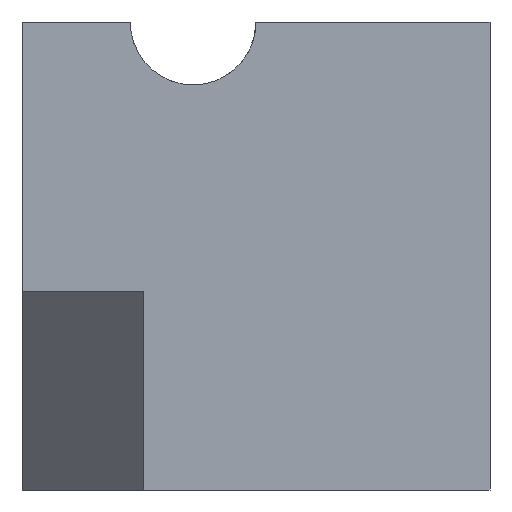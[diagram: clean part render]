
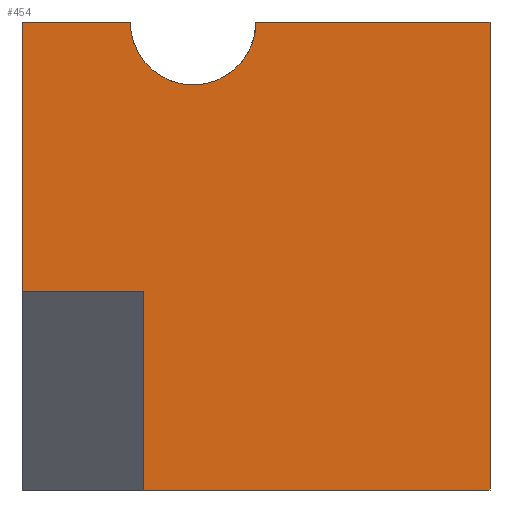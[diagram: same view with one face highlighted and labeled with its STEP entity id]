
A CAD part, left-side view. The second image highlights one B-rep face of the part: STEP entity #454.
In plain terms, the highlighted planar face has unit normal (-1, 0, 0).
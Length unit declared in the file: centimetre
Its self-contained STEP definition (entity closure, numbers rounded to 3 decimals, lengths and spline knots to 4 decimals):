
#5 = ORIENTED_EDGE ( 'NONE', *, *, #363, .F. ) ;
#9 = DIRECTION ( 'NONE',  ( 0., 0., -1. ) ) ;
#14 = VERTEX_POINT ( 'NONE', #33 ) ;
#16 = DIRECTION ( 'NONE',  ( 1., 0., 0. ) ) ;
#25 = CARTESIAN_POINT ( 'NONE',  ( 0., 1000., 424.6792 ) ) ;
#33 = CARTESIAN_POINT ( 'NONE',  ( 0., 1000., 1000. ) ) ;
#50 = CARTESIAN_POINT ( 'NONE',  ( 0., 1000., 1000. ) ) ;
#54 = ORIENTED_EDGE ( 'NONE', *, *, #394, .T. ) ;
#57 = CARTESIAN_POINT ( 'NONE',  ( 0., 634.4474, 1000. ) ) ;
#61 = CARTESIAN_POINT ( 'NONE',  ( 0., 500.0916, 1000. ) ) ;
#69 = CARTESIAN_POINT ( 'NONE',  ( 0., 1000., 1000. ) ) ;
#71 = EDGE_CURVE ( 'NONE', #193, #294, #190, .T. ) ;
#78 = CARTESIAN_POINT ( 'NONE',  ( 0., 739.3919, 424.6792 ) ) ;
#79 = VERTEX_POINT ( 'NONE', #78 ) ;
#82 = VERTEX_POINT ( 'NONE', #464 ) ;
#85 = EDGE_CURVE ( 'NONE', #82, #276, #393, .T. ) ;
#97 = VECTOR ( 'NONE', #102, 100. ) ;
#99 = PLANE ( 'NONE',  #154 ) ;
#102 = DIRECTION ( 'NONE',  ( 0., -1., 0. ) ) ;
#110 = CARTESIAN_POINT ( 'NONE',  ( 0., 1000., 424.6792 ) ) ;
#116 = ORIENTED_EDGE ( 'NONE', *, *, #85, .T. ) ;
#132 = DIRECTION ( 'NONE',  ( 0., 0., -1. ) ) ;
#148 = DIRECTION ( 'NONE',  ( 0., 0., -1. ) ) ;
#154 = AXIS2_PLACEMENT_3D ( 'NONE', #50, #330, #9 ) ;
#158 = VERTEX_POINT ( 'NONE', #282 ) ;
#166 = ORIENTED_EDGE ( 'NONE', *, *, #368, .F. ) ;
#174 = CARTESIAN_POINT ( 'NONE',  ( 0., 768.8031, 1000. ) ) ;
#179 = DIRECTION ( 'NONE',  ( 0., 0., -1. ) ) ;
#184 = LINE ( 'NONE', #336, #422 ) ;
#190 = LINE ( 'NONE', #351, #461 ) ;
#193 = VERTEX_POINT ( 'NONE', #398 ) ;
#198 = ORIENTED_EDGE ( 'NONE', *, *, #71, .T. ) ;
#206 = CARTESIAN_POINT ( 'NONE',  ( 0., 0., 1000. ) ) ;
#212 = DIRECTION ( 'NONE',  ( 0., -1., 0. ) ) ;
#214 = ORIENTED_EDGE ( 'NONE', *, *, #354, .F. ) ;
#219 = CARTESIAN_POINT ( 'NONE',  ( 0., 0., 0. ) ) ;
#223 = DIRECTION ( 'NONE',  ( 0., 0., -1. ) ) ;
#229 = CARTESIAN_POINT ( 'NONE',  ( 0., 634.4474, 1000. ) ) ;
#235 = DIRECTION ( 'NONE',  ( 0., -1., 0. ) ) ;
#240 = LINE ( 'NONE', #206, #335 ) ;
#244 = EDGE_LOOP ( 'NONE', ( #5, #455, #198, #248, #166, #272, #116, #214, #54 ) ) ;
#248 = ORIENTED_EDGE ( 'NONE', *, *, #253, .F. ) ;
#253 = EDGE_CURVE ( 'NONE', #158, #294, #240, .T. ) ;
#255 = DIRECTION ( 'NONE',  ( 0., 1., 0. ) ) ;
#259 = VECTOR ( 'NONE', #212, 100. ) ;
#265 = EDGE_CURVE ( 'NONE', #79, #193, #474, .T. ) ;
#266 = DIRECTION ( 'NONE',  ( 1., 0., 0. ) ) ;
#272 = ORIENTED_EDGE ( 'NONE', *, *, #340, .T. ) ;
#276 = VERTEX_POINT ( 'NONE', #174 ) ;
#280 = DIRECTION ( 'NONE',  ( 0., 0., -1. ) ) ;
#282 = CARTESIAN_POINT ( 'NONE',  ( 0., 0., 1000. ) ) ;
#294 = VERTEX_POINT ( 'NONE', #219 ) ;
#318 = CIRCLE ( 'NONE', #482, 134.3558 ) ;
#329 = LINE ( 'NONE', #69, #97 ) ;
#330 = DIRECTION ( 'NONE',  ( 1., 0., 0. ) ) ;
#334 = VERTEX_POINT ( 'NONE', #110 ) ;
#335 = VECTOR ( 'NONE', #280, 100. ) ;
#336 = CARTESIAN_POINT ( 'NONE',  ( 0., 1000., 1000. ) ) ;
#340 = EDGE_CURVE ( 'NONE', #352, #82, #318, .T. ) ;
#341 = VECTOR ( 'NONE', #255, 100. ) ;
#351 = CARTESIAN_POINT ( 'NONE',  ( 0., 1000., 0. ) ) ;
#352 = VERTEX_POINT ( 'NONE', #61 ) ;
#354 = EDGE_CURVE ( 'NONE', #14, #276, #329, .T. ) ;
#363 = EDGE_CURVE ( 'NONE', #79, #334, #458, .T. ) ;
#365 = CARTESIAN_POINT ( 'NONE',  ( 0., 739.3919, 424.6792 ) ) ;
#367 = VECTOR ( 'NONE', #132, 100. ) ;
#368 = EDGE_CURVE ( 'NONE', #352, #158, #376, .T. ) ;
#370 = AXIS2_PLACEMENT_3D ( 'NONE', #229, #266, #223 ) ;
#374 = FACE_OUTER_BOUND ( 'NONE', #244, .T. ) ;
#376 = LINE ( 'NONE', #381, #259 ) ;
#381 = CARTESIAN_POINT ( 'NONE',  ( 0., 1000., 1000. ) ) ;
#393 = CIRCLE ( 'NONE', #370, 134.3558 ) ;
#394 = EDGE_CURVE ( 'NONE', #14, #334, #184, .T. ) ;
#398 = CARTESIAN_POINT ( 'NONE',  ( 0., 739.3919, 0. ) ) ;
#422 = VECTOR ( 'NONE', #148, 100. ) ;
#454 = ADVANCED_FACE ( 'NONE', ( #374 ), #99, .F. ) ;
#455 = ORIENTED_EDGE ( 'NONE', *, *, #265, .T. ) ;
#458 = LINE ( 'NONE', #25, #341 ) ;
#461 = VECTOR ( 'NONE', #235, 100. ) ;
#464 = CARTESIAN_POINT ( 'NONE',  ( 0., 634.4474, 865.6442 ) ) ;
#474 = LINE ( 'NONE', #365, #367 ) ;
#482 = AXIS2_PLACEMENT_3D ( 'NONE', #57, #16, #179 ) ;
